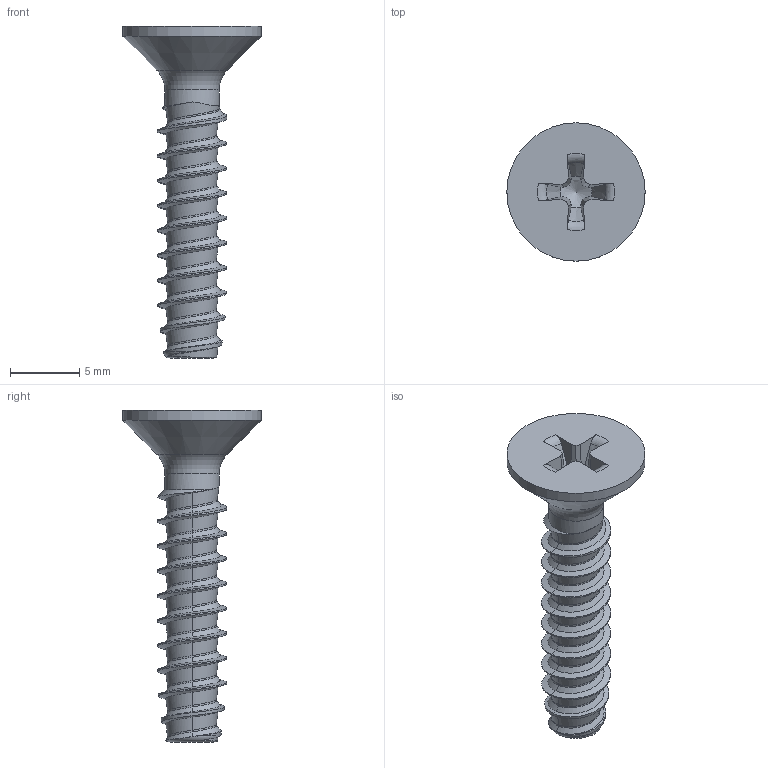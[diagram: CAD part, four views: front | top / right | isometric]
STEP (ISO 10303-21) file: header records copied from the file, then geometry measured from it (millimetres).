
FILE_DESCRIPTION(/* description */ (''),/* implementation_level */ '2;1');
FILE_NAME(/* name */ 'KN6041-STSplus-50x24-H2.step',/* time_stamp */ '2017-10-12T12:46:54+02:00',/* author */ (''),/* organization */ (''),/* preprocessor_version */ 'ST-DEVELOPER v16',/* originating_system */ 'SIEMENS PLM Software NX 10.0',/* authorisation */ '');
FILE_SCHEMA (('AUTOMOTIVE_DESIGN { 1 0 10303 214 3 1 1 1 }'));
Length unit declared in the file: millimetre
Products named in the file (1): KN6041-STSplus-50x24-H2
Bounding box: 10 x 10 x 24 mm (x, y, z)
Volume: 410.2 mm3; surface area: 594 mm2
Topology: 1 solids, 1 shells, 90 faces, 222 edges, 134 vertices
Faces by surface type: bspline 55, plane 18, cone 8, torus 6, cylinder 3
Full cylindrical faces by diameter (mm): 3.92 x1, 10 x1
Entity records: 5560 total; most frequent: CARTESIAN_POINT 3857, ORIENTED_EDGE 422, EDGE_CURVE 211, DIRECTION 192, VERTEX_POINT 130, B_SPLINE_CURVE_WITH_KNOTS 112, EDGE_LOOP 96, ADVANCED_FACE 90
